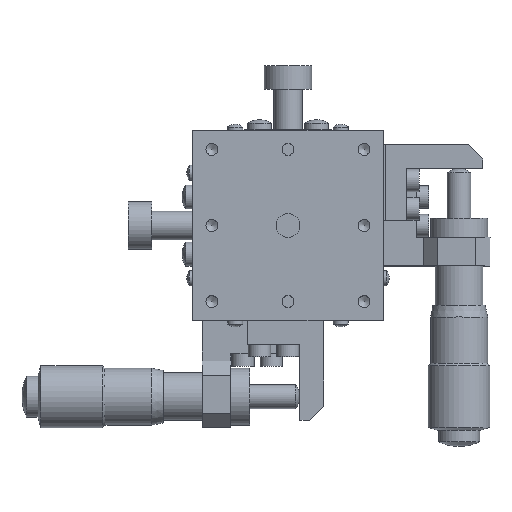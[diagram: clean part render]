
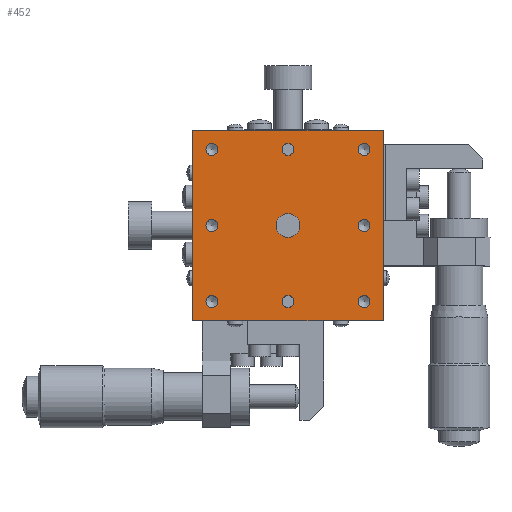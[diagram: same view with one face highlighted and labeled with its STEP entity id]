
A CAD part, top view. The second image highlights one B-rep face of the part: STEP entity #452.
In plain terms, the highlighted planar face has unit normal (0, 0, 1).
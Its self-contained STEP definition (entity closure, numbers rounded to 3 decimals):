
#452 = ADVANCED_FACE( '', ( #1114, #1115, #1116, #1117, #1118, #1119, #1120, #1121, #1122, #1123 ), #1124, .T. );
#1114 = FACE_BOUND( '', #2079, .T. );
#1115 = FACE_BOUND( '', #2080, .T. );
#1116 = FACE_BOUND( '', #2081, .T. );
#1117 = FACE_BOUND( '', #2082, .T. );
#1118 = FACE_BOUND( '', #2083, .T. );
#1119 = FACE_BOUND( '', #2084, .T. );
#1120 = FACE_BOUND( '', #2085, .T. );
#1121 = FACE_BOUND( '', #2086, .T. );
#1122 = FACE_OUTER_BOUND( '', #2087, .T. );
#1123 = FACE_BOUND( '', #2088, .T. );
#1124 = PLANE( '', #2089 );
#2079 = EDGE_LOOP( '', ( #3304 ) );
#2080 = EDGE_LOOP( '', ( #3305 ) );
#2081 = EDGE_LOOP( '', ( #3306 ) );
#2082 = EDGE_LOOP( '', ( #3307 ) );
#2083 = EDGE_LOOP( '', ( #3308 ) );
#2084 = EDGE_LOOP( '', ( #3309 ) );
#2085 = EDGE_LOOP( '', ( #3310 ) );
#2086 = EDGE_LOOP( '', ( #3311 ) );
#2087 = EDGE_LOOP( '', ( #3312, #3313, #3314, #3315 ) );
#2088 = EDGE_LOOP( '', ( #3316 ) );
#2089 = AXIS2_PLACEMENT_3D( '', #3317, #3318, #3319 );
#3304 = ORIENTED_EDGE( '', *, *, #5247, .T. );
#3305 = ORIENTED_EDGE( '', *, *, #5248, .T. );
#3306 = ORIENTED_EDGE( '', *, *, #5249, .T. );
#3307 = ORIENTED_EDGE( '', *, *, #5191, .T. );
#3308 = ORIENTED_EDGE( '', *, *, #5250, .T. );
#3309 = ORIENTED_EDGE( '', *, *, #4964, .T. );
#3310 = ORIENTED_EDGE( '', *, *, #5251, .T. );
#3311 = ORIENTED_EDGE( '', *, *, #5088, .T. );
#3312 = ORIENTED_EDGE( '', *, *, #5252, .T. );
#3313 = ORIENTED_EDGE( '', *, *, #5253, .T. );
#3314 = ORIENTED_EDGE( '', *, *, #5254, .T. );
#3315 = ORIENTED_EDGE( '', *, *, #5255, .T. );
#3316 = ORIENTED_EDGE( '', *, *, #5256, .T. );
#3317 = CARTESIAN_POINT( '', ( 0., 0., 22. ) );
#3318 = DIRECTION( '', ( 0., 0., 1. ) );
#3319 = DIRECTION( '', ( 0., 1., 0. ) );
#4964 = EDGE_CURVE( '', #5795, #5795, #5796, .T. );
#5088 = EDGE_CURVE( '', #6015, #6015, #6016, .T. );
#5191 = EDGE_CURVE( '', #6186, #6186, #6187, .T. );
#5247 = EDGE_CURVE( '', #6279, #6279, #6280, .T. );
#5248 = EDGE_CURVE( '', #6281, #6281, #6282, .T. );
#5249 = EDGE_CURVE( '', #6283, #6283, #6284, .T. );
#5250 = EDGE_CURVE( '', #6285, #6285, #6286, .T. );
#5251 = EDGE_CURVE( '', #6287, #6287, #6288, .T. );
#5252 = EDGE_CURVE( '', #6289, #6290, #6291, .T. );
#5253 = EDGE_CURVE( '', #6290, #6292, #6293, .T. );
#5254 = EDGE_CURVE( '', #6292, #6294, #6295, .T. );
#5255 = EDGE_CURVE( '', #6294, #6289, #6296, .T. );
#5256 = EDGE_CURVE( '', #6297, #6297, #6298, .T. );
#5795 = VERTEX_POINT( '', #7009 );
#5796 = CIRCLE( '', #7010, 1.25 );
#6015 = VERTEX_POINT( '', #7298 );
#6016 = CIRCLE( '', #7299, 1.25 );
#6186 = VERTEX_POINT( '', #7515 );
#6187 = CIRCLE( '', #7516, 1.25 );
#6279 = VERTEX_POINT( '', #7633 );
#6280 = CIRCLE( '', #7634, 1.25 );
#6281 = VERTEX_POINT( '', #7635 );
#6282 = CIRCLE( '', #7636, 1.25 );
#6283 = VERTEX_POINT( '', #7637 );
#6284 = CIRCLE( '', #7638, 1.25 );
#6285 = VERTEX_POINT( '', #7639 );
#6286 = CIRCLE( '', #7640, 1.25 );
#6287 = VERTEX_POINT( '', #7641 );
#6288 = CIRCLE( '', #7642, 1.25 );
#6289 = VERTEX_POINT( '', #7643 );
#6290 = VERTEX_POINT( '', #7644 );
#6291 = LINE( '', #7645, #7646 );
#6292 = VERTEX_POINT( '', #7647 );
#6293 = LINE( '', #7648, #7649 );
#6294 = VERTEX_POINT( '', #7650 );
#6295 = LINE( '', #7651, #7652 );
#6296 = LINE( '', #7653, #7654 );
#6297 = VERTEX_POINT( '', #7655 );
#6298 = CIRCLE( '', #7656, 2.5 );
#7009 = CARTESIAN_POINT( '', ( 16., -17.25, 22. ) );
#7010 = AXIS2_PLACEMENT_3D( '', #8557, #8558, #8559 );
#7298 = CARTESIAN_POINT( '', ( -16., -17.25, 22. ) );
#7299 = AXIS2_PLACEMENT_3D( '', #8719, #8720, #8721 );
#7515 = CARTESIAN_POINT( '', ( 16., 14.75, 22. ) );
#7516 = AXIS2_PLACEMENT_3D( '', #8858, #8859, #8860 );
#7633 = CARTESIAN_POINT( '', ( -16., -1.25, 22. ) );
#7634 = AXIS2_PLACEMENT_3D( '', #8940, #8941, #8942 );
#7635 = CARTESIAN_POINT( '', ( -16., 14.75, 22. ) );
#7636 = AXIS2_PLACEMENT_3D( '', #8943, #8944, #8945 );
#7637 = CARTESIAN_POINT( '', ( 0., 14.75, 22. ) );
#7638 = AXIS2_PLACEMENT_3D( '', #8946, #8947, #8948 );
#7639 = CARTESIAN_POINT( '', ( 16., -1.25, 22. ) );
#7640 = AXIS2_PLACEMENT_3D( '', #8949, #8950, #8951 );
#7641 = CARTESIAN_POINT( '', ( 0., -17.25, 22. ) );
#7642 = AXIS2_PLACEMENT_3D( '', #8952, #8953, #8954 );
#7643 = CARTESIAN_POINT( '', ( 20., 20., 22. ) );
#7644 = CARTESIAN_POINT( '', ( -20., 20., 22. ) );
#7645 = CARTESIAN_POINT( '', ( 0., 20., 22. ) );
#7646 = VECTOR( '', #8955, 1000. );
#7647 = CARTESIAN_POINT( '', ( -20., -20., 22. ) );
#7648 = CARTESIAN_POINT( '', ( -20., 0., 22. ) );
#7649 = VECTOR( '', #8956, 1000. );
#7650 = CARTESIAN_POINT( '', ( 20., -20., 22. ) );
#7651 = CARTESIAN_POINT( '', ( 0., -20., 22. ) );
#7652 = VECTOR( '', #8957, 1000. );
#7653 = CARTESIAN_POINT( '', ( 20., 0., 22. ) );
#7654 = VECTOR( '', #8958, 1000. );
#7655 = CARTESIAN_POINT( '', ( 2.5, 0., 22. ) );
#7656 = AXIS2_PLACEMENT_3D( '', #8959, #8960, #8961 );
#8557 = CARTESIAN_POINT( '', ( 16., -16., 22. ) );
#8558 = DIRECTION( '', ( 0., 0., -1. ) );
#8559 = DIRECTION( '', ( 0., -1., 0. ) );
#8719 = CARTESIAN_POINT( '', ( -16., -16., 22. ) );
#8720 = DIRECTION( '', ( 0., 0., -1. ) );
#8721 = DIRECTION( '', ( 0., -1., 0. ) );
#8858 = CARTESIAN_POINT( '', ( 16., 16., 22. ) );
#8859 = DIRECTION( '', ( 0., 0., -1. ) );
#8860 = DIRECTION( '', ( 0., -1., 0. ) );
#8940 = CARTESIAN_POINT( '', ( -16., 0., 22. ) );
#8941 = DIRECTION( '', ( 0., 0., -1. ) );
#8942 = DIRECTION( '', ( 0., -1., 0. ) );
#8943 = CARTESIAN_POINT( '', ( -16., 16., 22. ) );
#8944 = DIRECTION( '', ( 0., 0., -1. ) );
#8945 = DIRECTION( '', ( 0., -1., 0. ) );
#8946 = CARTESIAN_POINT( '', ( 0., 16., 22. ) );
#8947 = DIRECTION( '', ( 0., 0., -1. ) );
#8948 = DIRECTION( '', ( 0., -1., 0. ) );
#8949 = CARTESIAN_POINT( '', ( 16., 0., 22. ) );
#8950 = DIRECTION( '', ( 0., 0., -1. ) );
#8951 = DIRECTION( '', ( 0., -1., 0. ) );
#8952 = CARTESIAN_POINT( '', ( 0., -16., 22. ) );
#8953 = DIRECTION( '', ( 0., 0., -1. ) );
#8954 = DIRECTION( '', ( 0., -1., 0. ) );
#8955 = DIRECTION( '', ( -1., 0., 0. ) );
#8956 = DIRECTION( '', ( 0., -1., 0. ) );
#8957 = DIRECTION( '', ( 1., 0., 0. ) );
#8958 = DIRECTION( '', ( 0., 1., 0. ) );
#8959 = CARTESIAN_POINT( '', ( 0., 0., 22. ) );
#8960 = DIRECTION( '', ( 0., 0., -1. ) );
#8961 = DIRECTION( '', ( 1., 0., 0. ) );
